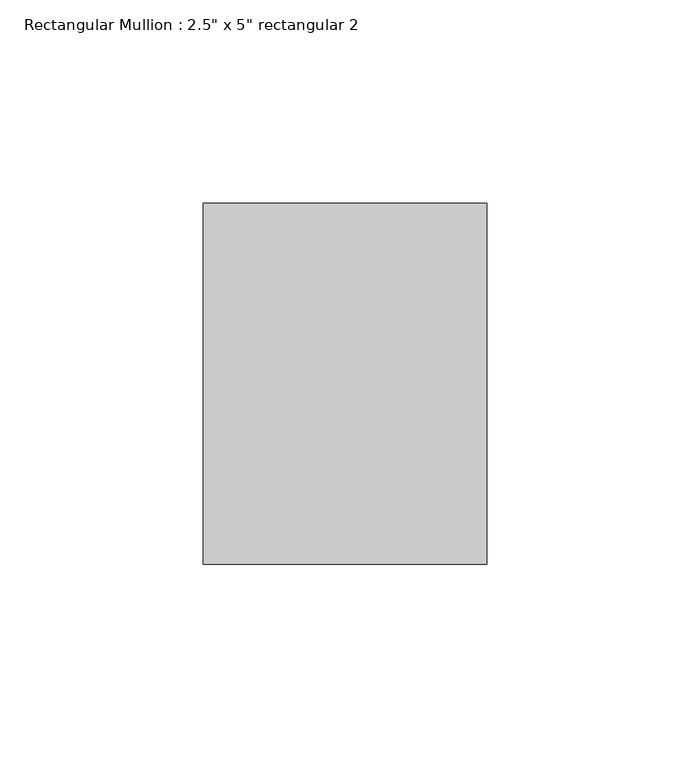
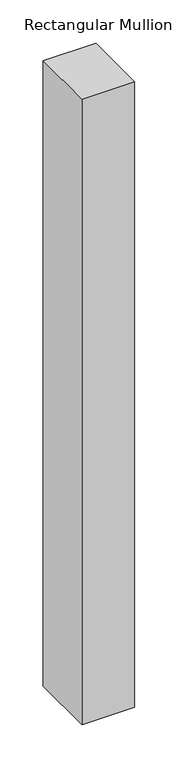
"""IFC4 building model written with IfcOpenShell, lengths in millimetres: member geometry."""

from ifc_helpers import new_model, si_unit, frame, origin, place, context, project, spatial, polyline, outline, extrude, source, transform, mapped, element, save


def member_5b28e207(model_context):
    return source(origin(), model_context, "Body", "SweptSolid", [
        extrude(outline(polyline([(0.0, 44.45), (0.0, -44.45), (-69.85, -44.45), (-69.85, 44.45), (0.0, 44.45)])), frame((0.0, 0.0, -878.4166667), z_axis=(0.0, 0.0, 1.0), x_axis=(1.0, 0.0, 0.0)), (0.0, 0.0, 1.0), 878.4166667),
    ])


if __name__ == "__main__":
    model = new_model("IFC4")
    model_context = context("Model", 3, world=origin())
    ifc_project = project(units=[si_unit("LENGTHUNIT", "METRE", prefix="MILLI")], contexts=[model_context])
    site = spatial("IfcSite", under=ifc_project)
    building = spatial("IfcBuilding", under=site)
    placement = place(None, origin())
    member_shape = member_5b28e207(model_context)
    element("IfcMember", 1, ObjectType="Rectangular Mullion : 2.5\" x 5\" rectangular 2", at=placement, inside=building, context=model_context, shape_type="MappedRepresentation", body=[
        mapped(member_shape, transform((0.0, 0.0, 0.0), x_axis=(1.0, 0.0, 0.0), y_axis=(0.0, 1.0, 0.0), z_axis=(0.0, 0.0, 1.0))),
    ])
    save(model, "model.ifc")
